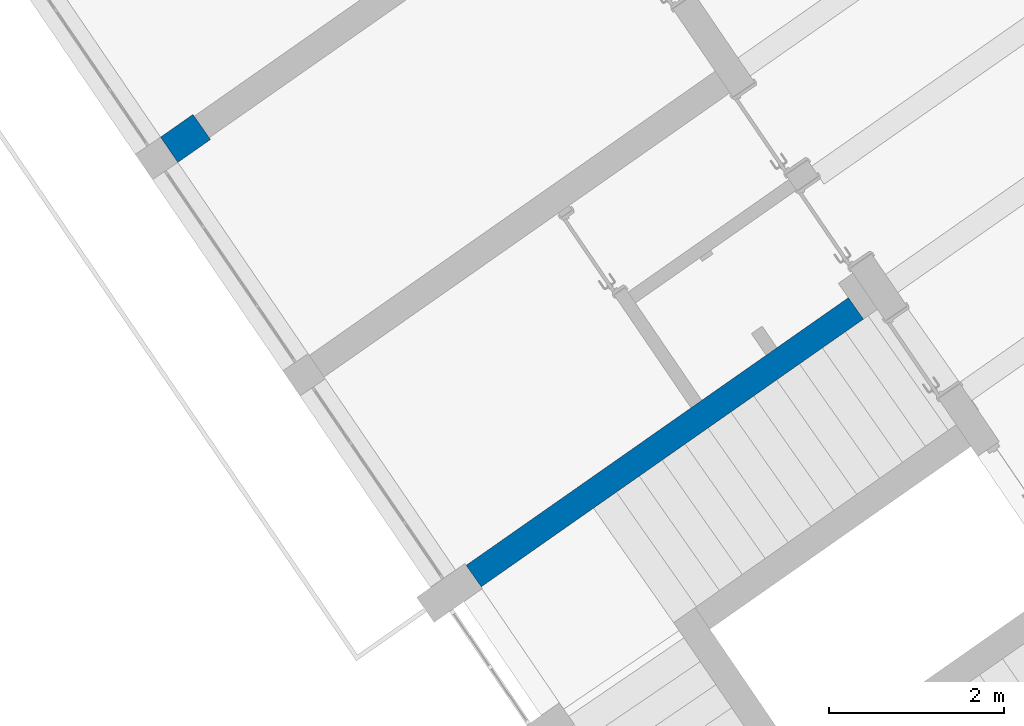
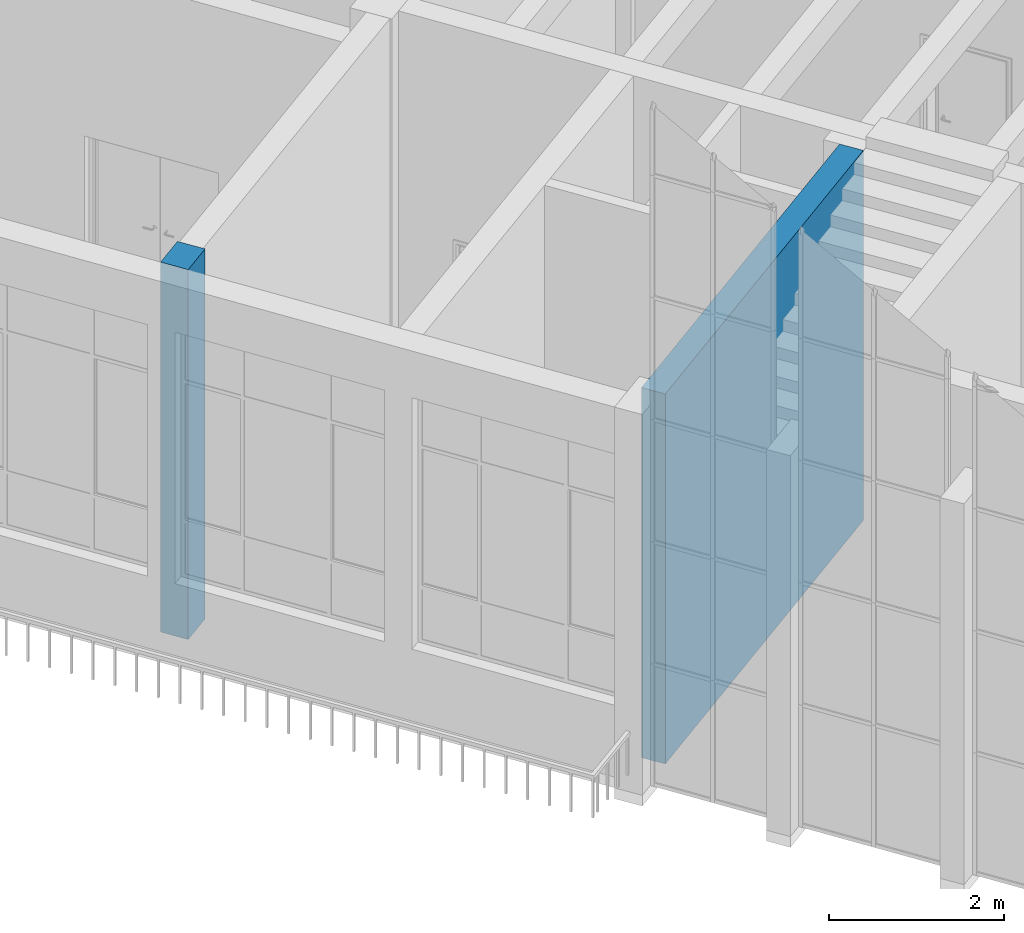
# One storey, part 67 of 157: 2 walls.
"""IFC2X3 building model written with IfcOpenShell, lengths in millimetres."""

from ifc_helpers import new_model, entity, si_unit, converted_unit, derived_unit, direction, frame, frame_2d, origin, place, context, subcontext, project, spatial, polyline, rectangle, outline, extrude, material, layer, layer_set, layer_usage, type_object, element, save


model = new_model("IFC2X3")

# Units and contexts
model_context = context("Model", 3, precision=0.01, world=origin(), true_north=direction((6.123031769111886e-17, 1.0)))
body_context = subcontext(model_context, "Body", "Model", "MODEL_VIEW")
ifc_project = project(units=[si_unit("LENGTHUNIT", "METRE", prefix="MILLI"), si_unit("AREAUNIT", "SQUARE_METRE"), si_unit("VOLUMEUNIT", "CUBIC_METRE"), converted_unit("PLANEANGLEUNIT", "DEGREE", entity("IfcRatioMeasure", 0.017453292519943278), si_unit("PLANEANGLEUNIT", "RADIAN"), dimensions=[0, 0, 0, 0, 0, 0, 0]), si_unit("MASSUNIT", "GRAM", prefix="KILO"), derived_unit("MASSDENSITYUNIT", [(si_unit("MASSUNIT", "GRAM", prefix="KILO"), 1), (si_unit("LENGTHUNIT", "METRE"), -3)]), derived_unit("MOMENTOFINERTIAUNIT", [(si_unit("LENGTHUNIT", "METRE"), 4)]), si_unit("TIMEUNIT", "SECOND"), si_unit("FREQUENCYUNIT", "HERTZ"), si_unit("THERMODYNAMICTEMPERATUREUNIT", "DEGREE_CELSIUS"), derived_unit("THERMALTRANSMITTANCEUNIT", [(si_unit("MASSUNIT", "GRAM", prefix="KILO"), 1), (si_unit("THERMODYNAMICTEMPERATUREUNIT", "KELVIN"), -1), (si_unit("TIMEUNIT", "SECOND"), -3)]), derived_unit("THERMALCONDUCTANCEUNIT", [(si_unit("MASSUNIT", "GRAM", prefix="KILO"), 1), (si_unit("LENGTHUNIT", "METRE"), 1), (si_unit("THERMODYNAMICTEMPERATUREUNIT", "KELVIN"), -1), (si_unit("TIMEUNIT", "SECOND"), -3)]), derived_unit("VOLUMETRICFLOWRATEUNIT", [(si_unit("LENGTHUNIT", "METRE"), 3), (si_unit("TIMEUNIT", "SECOND"), -1)]), derived_unit("MASSFLOWRATEUNIT", [(si_unit("MASSUNIT", "GRAM", prefix="KILO"), 1), (si_unit("TIMEUNIT", "SECOND"), -1)]), derived_unit("ROTATIONALFREQUENCYUNIT", [(si_unit("TIMEUNIT", "SECOND"), -1)]), si_unit("ELECTRICCURRENTUNIT", "AMPERE"), si_unit("ELECTRICVOLTAGEUNIT", "VOLT"), si_unit("POWERUNIT", "WATT"), converted_unit("FORCEUNIT", "KIP", entity("IfcRatioMeasure", 2.088543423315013e-05), si_unit("FORCEUNIT", "NEWTON"), dimensions=[1, 1, -2, 0, 0, 0, 0]), si_unit("ILLUMINANCEUNIT", "LUX"), si_unit("LUMINOUSFLUXUNIT", "LUMEN"), si_unit("LUMINOUSINTENSITYUNIT", "CANDELA"), derived_unit("USERDEFINED", [(si_unit("MASSUNIT", "GRAM", prefix="KILO"), -1), (si_unit("LENGTHUNIT", "METRE"), -2), (si_unit("TIMEUNIT", "SECOND"), 3), (si_unit("LUMINOUSFLUXUNIT", "LUMEN"), 1)]), derived_unit("USERDEFINED", [(si_unit("MASSUNIT", "GRAM", prefix="KILO"), 1), (si_unit("LENGTHUNIT", "METRE"), 3), (si_unit("TIMEUNIT", "SECOND"), -3), (si_unit("ELECTRICCURRENTUNIT", "AMPERE"), -2)]), derived_unit("USERDEFINED", [(si_unit("LENGTHUNIT", "METRE"), 2), (si_unit("TIMEUNIT", "SECOND"), -2)]), derived_unit("SOUNDPOWERUNIT", [(si_unit("MASSUNIT", "GRAM", prefix="KILO"), 1), (si_unit("LENGTHUNIT", "METRE"), 2), (si_unit("TIMEUNIT", "SECOND"), -3)]), derived_unit("SOUNDPRESSUREUNIT", [(si_unit("MASSUNIT", "GRAM", prefix="KILO"), 1), (si_unit("LENGTHUNIT", "METRE"), -1), (si_unit("TIMEUNIT", "SECOND"), -2)]), derived_unit("LINEARVELOCITYUNIT", [(si_unit("LENGTHUNIT", "METRE"), 1), (si_unit("TIMEUNIT", "SECOND"), -1)]), si_unit("PRESSUREUNIT", "PASCAL"), derived_unit("USERDEFINED", [(si_unit("LENGTHUNIT", "METRE"), -2), (si_unit("MASSUNIT", "GRAM", prefix="KILO"), 1), (si_unit("TIMEUNIT", "SECOND"), -2)]), derived_unit("LINEARFORCEUNIT", [(si_unit("MASSUNIT", "GRAM", prefix="KILO"), 1), (si_unit("LENGTHUNIT", "METRE"), 1), (si_unit("TIMEUNIT", "SECOND"), -2), (si_unit("LENGTHUNIT", "METRE"), -1)]), derived_unit("PLANARFORCEUNIT", [(si_unit("MASSUNIT", "GRAM", prefix="KILO"), 1), (si_unit("LENGTHUNIT", "METRE"), 1), (si_unit("TIMEUNIT", "SECOND"), -2), (si_unit("LENGTHUNIT", "METRE"), -2)]), derived_unit("SPECIFICHEATCAPACITYUNIT", [(si_unit("LENGTHUNIT", "METRE"), 2), (si_unit("TIMEUNIT", "SECOND"), -2), (si_unit("THERMODYNAMICTEMPERATUREUNIT", "KELVIN"), -1)]), derived_unit("VAPORPERMEABILITYUNIT", [(si_unit("TIMEUNIT", "SECOND"), 1), (si_unit("LENGTHUNIT", "METRE"), -1)]), derived_unit("DYNAMICVISCOSITYUNIT", [(si_unit("MASSUNIT", "GRAM", prefix="KILO"), 1), (si_unit("LENGTHUNIT", "METRE"), -1), (si_unit("TIMEUNIT", "SECOND"), -1)]), derived_unit("THERMALEXPANSIONCOEFFICIENTUNIT", [(si_unit("THERMODYNAMICTEMPERATUREUNIT", "KELVIN"), -1)])], contexts=[model_context])

# Site, building, storey
site_placement = place(None, frame((0.0, 0.0, 0.0), z_axis=(0.0, 0.0, 1.0), x_axis=(0.8191520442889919, 0.5735764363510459, 0.0)))
site = spatial("IfcSite", under=ifc_project, at=site_placement, Name="Default", CompositionType="ELEMENT")
building_placement = place(site_placement, origin())
building = spatial("IfcBuilding", under=site, at=building_placement, CompositionType="ELEMENT")
storey_placement = place(building_placement, origin())
storey = spatial("IfcBuildingStorey", under=building, at=storey_placement, Name="1.EG +0.00", CompositionType="ELEMENT", Elevation=-4.331468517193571e-12)

# Walls
ifc_material = material(Name="Analytical Wall Surface_CJC")
ifc_layer_1 = layer(ifc_material, 300.0)
ifc_layer_set_1 = layer_set([ifc_layer_1], Name="Basic Wall:Wand_Innen_30")
ifc_layer_usage_1 = layer_usage(ifc_layer_set_1, "AXIS2", "NEGATIVE", 150.0)
wall_type_1 = type_object("IfcWallType", Name="Basic Wall:Wand_Innen_30", PredefinedType="STANDARD", material=ifc_layer_set_1)
wall_1_placement = place(storey_placement, frame((-222615.51426439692, 115696.35891435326, 0.0)))
element("IfcWallStandardCase", 1, at=wall_1_placement, inside=storey, type_object=wall_type_1, material=ifc_layer_usage_1, Name="Basic Wall:Wand_Innen_30", ObjectType="Basic Wall:Wand_Innen_30", context=body_context, shape_type="SweptSolid", body=[
    extrude(rectangle(XDim=5344.349121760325, YDim=300.0000000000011, at=frame_2d((2672.1745608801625, 2.9700686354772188e-12), x_axis=(-1.0, 0.0))), origin(), (0.0, 0.0, 1.0), 5150.000000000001),
])
ifc_layer_2 = layer(ifc_material, 350.0)
ifc_layer_set_2 = layer_set([ifc_layer_2], Name="Basic Wall:Wand_Innen_35")
ifc_layer_usage_2 = layer_usage(ifc_layer_set_2, "AXIS2", "NEGATIVE", 175.0)
wall_type_2 = type_object("IfcWallType", Name="Basic Wall:Wand_Innen_35", PredefinedType="STANDARD", material=ifc_layer_set_2)
wall_2_placement = place(storey_placement, frame((-222674.15528830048, 121696.35891435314, 0.0)))
element("IfcWallStandardCase", 2, at=wall_2_placement, inside=storey, type_object=wall_type_2, material=ifc_layer_usage_2, Name="Basic Wall:Wand_Innen_35", ObjectType="Basic Wall:Wand_Innen_35", context=body_context, shape_type="SweptSolid", body=[
    extrude(outline(polyline([(457.26501107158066, -175.0), (457.2650110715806, -150.0), (457.2650110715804, 150.0), (457.26501107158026, 175.0), (4.45342130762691, 175.0), (0.0, -175.0), (457.26501107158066, -175.0)])), origin(), (0.0, 0.0, 1.0), 5150.000000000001),
])

save(model, "model.ifc")
